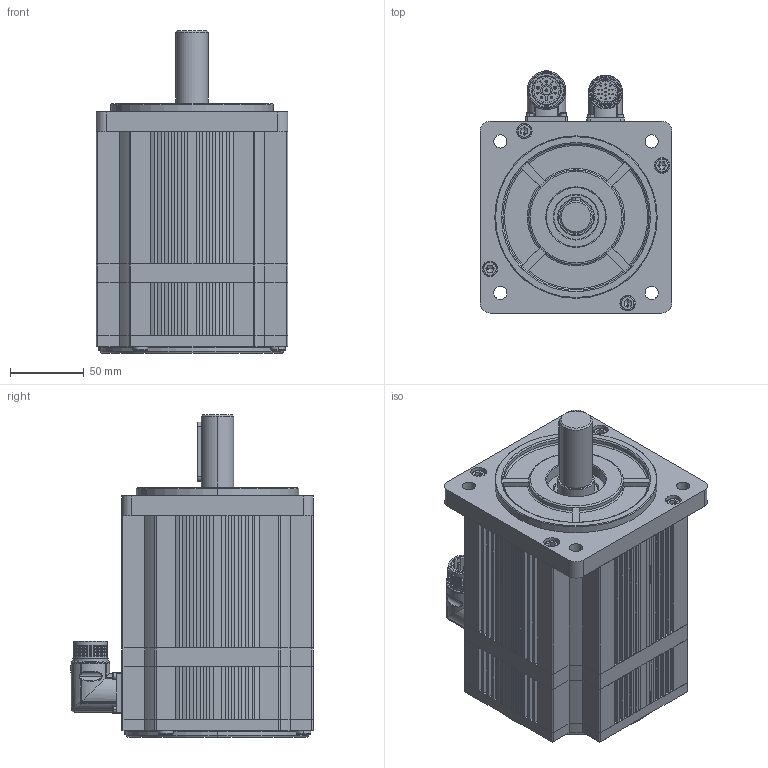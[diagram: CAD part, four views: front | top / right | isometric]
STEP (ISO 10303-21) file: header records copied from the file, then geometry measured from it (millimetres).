
FILE_DESCRIPTION (( 'STEP AP214' ), '1' );
FILE_NAME ('SMC130D-0150-20MAK-5LSP.STEP', '2022-09-02T02:55:32', ( '' ), ( '' ), 'SwSTEP 2.0', 'SolidWorks 2018', '' );
FILE_SCHEMA (( 'AUTOMOTIVE_DESIGN' ));
Length unit declared in the file: millimetre
Products named in the file (12): 綴傷裔; ぱ籵A倰瑩; 郋弊莉陓瘍菁釱; hexagon socket head cap screws gb_GB_FASTENER_SCREWS_HSHCS M6X55-N; 鎢攫欶綴裔; 郋弊莉萇埭菁釱; SMC130D-0150-20MAK-5LSP; hexagon socket head cap screws gb_GB_FASTENER_SCREWS_HSHCS M2.5X8-N; 鎢攫欶褲极; ヶ傷裔; hexagon socket head cap screws gb_GB_FASTENER_SCREWS_HSHCS M6X20-N; 儂褲
Assembly tree (24 placements, depth 2):
  SMC130D-0150-20MAK-5LSP
    ヶ傷裔
    儂褲
    綴傷裔
    鎢攫欶褲极
    鎢攫欶綴裔
    郋弊莉萇埭菁釱
    郋弊莉陓瘍菁釱
    hexagon socket head cap screws gb_GB_FASTENER_SCREWS_HSHCS M2.5X8-N  x8
    hexagon socket head cap screws gb_GB_FASTENER_SCREWS_HSHCS M6X55-N  x4
    ぱ籵A倰瑩
    hexagon socket head cap screws gb_GB_FASTENER_SCREWS_HSHCS M6X20-N  x4
Bounding box: 130 x 164.5 x 218.5 mm (x, y, z)
Volume: 2490913 mm3; surface area: 320295.5 mm2
Topology: 48 solids, 48 shells, 1859 faces, 4699 edges, 2975 vertices
Faces by surface type: plane 842, cylinder 778, cone 90, torus 90, sphere 46, bspline 13
Entity records: 59096 total; most frequent: CARTESIAN_POINT 10417, DIRECTION 8403, ORIENTED_EDGE 7714, EDGE_CURVE 3857, AXIS2_PLACEMENT_3D 3146, VERTEX_POINT 2500, VECTOR 2111, LINE 2111
